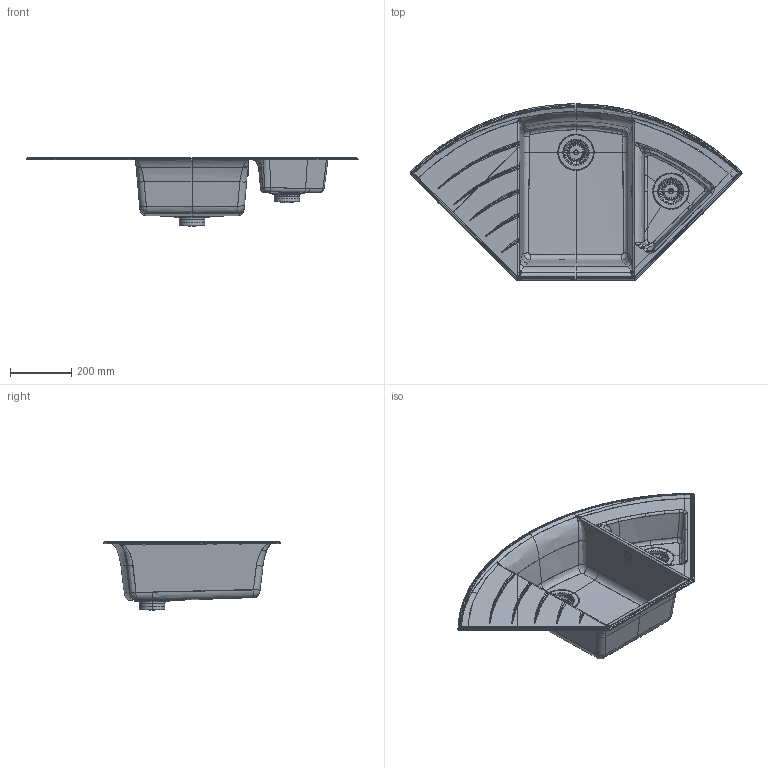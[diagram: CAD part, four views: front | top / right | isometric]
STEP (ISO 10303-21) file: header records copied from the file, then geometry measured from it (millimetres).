
FILE_DESCRIPTION(/* description */ (''),/* implementation_level */ '2;1');
FILE_NAME(/* name */ 'LOTC150',/* time_stamp */ '2014-11-04T09:45:31+01:00',/* author */ (''),/* organization */ (''),/* preprocessor_version */ 'ST-DEVELOPER v15',/* originating_system */ '',/* authorisation */ '');
FILE_SCHEMA (('AUTOMOTIVE_DESIGN'));
Length unit declared in the file: millimetre
Products named in the file (1): Document
Bounding box: 1082.23 x 575 x 224.23 mm (x, y, z)
Volume: 62210.7 mm3; surface area: 799438.1 mm2
Topology: 6 solids, 445 shells, 801 faces, 2907 edges, 2458 vertices
Faces by surface type: bspline 751, plane 50
Entity records: 147505 total; most frequent: CARTESIAN_POINT 127915, ORIENTED_EDGE 4077, EDGE_CURVE 2885, VERTEX_POINT 2459, B_SPLINE_CURVE_WITH_KNOTS 2386, EDGE_LOOP 969, ADVANCED_FACE 801, FACE_OUTER_BOUND 801
